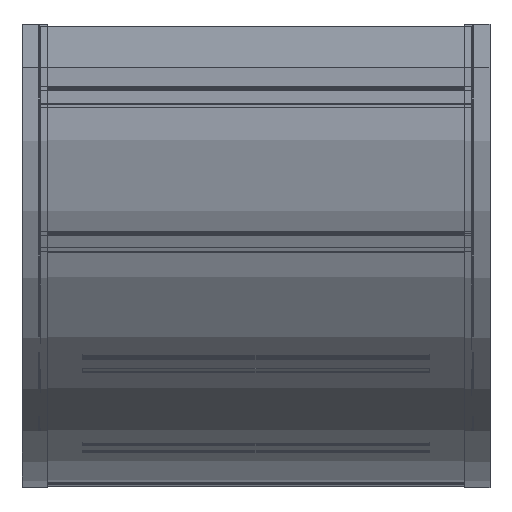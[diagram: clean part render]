
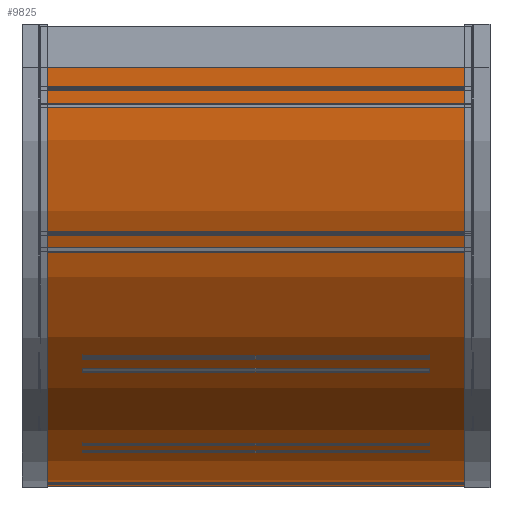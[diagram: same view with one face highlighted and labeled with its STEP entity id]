
A CAD part, front view. The second image highlights one B-rep face of the part: STEP entity #9825.
In plain terms, the highlighted cylindrical face has radius 735.965 mm (diameter 1471.93 mm), a partial arc.
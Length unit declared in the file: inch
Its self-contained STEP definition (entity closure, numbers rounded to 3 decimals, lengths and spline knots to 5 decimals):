
#9531=CARTESIAN_POINT('',(14.9375,28.935,0.));
#9532=DIRECTION('',(-1.,0.,0.));
#9533=DIRECTION('',(0.,-1.,0.));
#9534=AXIS2_PLACEMENT_3D('',#9531,#9532,#9533);
#9557=CARTESIAN_POINT('',(-14.9375,28.935,0.));
#9558=DIRECTION('',(-1.,0.,0.));
#9559=DIRECTION('',(0.,-1.,0.));
#9560=AXIS2_PLACEMENT_3D('',#9557,#9558,#9559);
#9590=DIRECTION('',(-1.,0.,0.));
#9591=VECTOR('',#9590,29.875);
#9592=CARTESIAN_POINT('',(14.9375,28.935,28.975));
#9593=LINE('',#9592,#9591);
#9594=DIRECTION('',(-1.,0.,0.));
#9595=VECTOR('',#9594,29.875);
#9596=CARTESIAN_POINT('',(14.9375,-0.04,0.));
#9597=LINE('',#9596,#9595);
#9630=CARTESIAN_POINT('',(14.9375,-0.04,0.));
#9632=VERTEX_POINT('',#9630);
#9636=CARTESIAN_POINT('',(-14.9375,-0.04,0.));
#9637=VERTEX_POINT('',#9636);
#9646=CARTESIAN_POINT('',(14.9375,28.935,28.975));
#9647=VERTEX_POINT('',#9646);
#9650=CARTESIAN_POINT('',(-14.9375,28.935,28.975));
#9651=VERTEX_POINT('',#9650);
#9813=CARTESIAN_POINT('',(14.9375,28.935,0.));
#9814=DIRECTION('',(-1.,0.,0.));
#9815=DIRECTION('',(0.,0.,1.));
#9816=AXIS2_PLACEMENT_3D('',#9813,#9814,#9815);
#9817=CYLINDRICAL_SURFACE('',#9816,28.975);
#9818=ORIENTED_EDGE('',*,*,#9693,.F.);
#9820=ORIENTED_EDGE('',*,*,#9819,.T.);
#9821=ORIENTED_EDGE('',*,*,#9750,.T.);
#9822=ORIENTED_EDGE('',*,*,#9805,.F.);
#9823=EDGE_LOOP('',(#9818,#9820,#9821,#9822));
#9824=FACE_OUTER_BOUND('',#9823,.F.);
#9825=ADVANCED_FACE('',(#9824),#9817,.T.);
#9535=CIRCLE('',#9534,28.975);
#9561=CIRCLE('',#9560,28.975);
#9693=EDGE_CURVE('',#9632,#9647,#9535,.T.);
#9750=EDGE_CURVE('',#9637,#9651,#9561,.T.);
#9805=EDGE_CURVE('',#9647,#9651,#9593,.T.);
#9819=EDGE_CURVE('',#9632,#9637,#9597,.T.);
